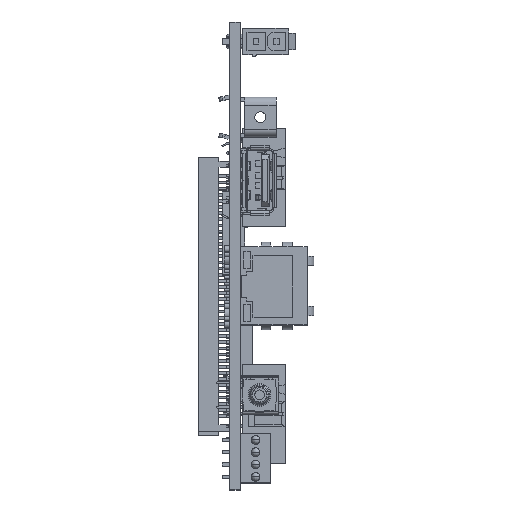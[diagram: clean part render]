
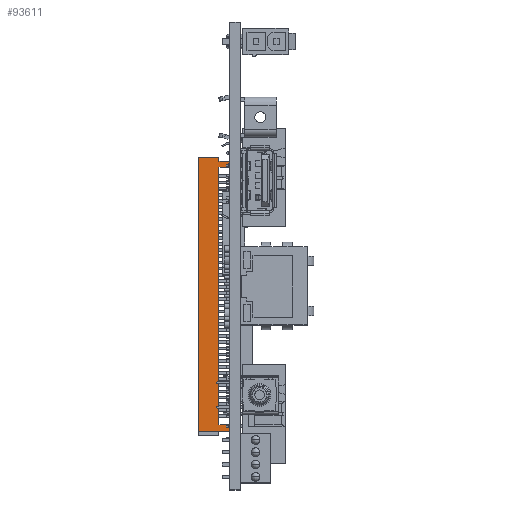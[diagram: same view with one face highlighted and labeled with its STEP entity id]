
A CAD part, top view. The second image highlights one B-rep face of the part: STEP entity #93611.
In plain terms, the highlighted planar face has unit normal (0, 0, 1).
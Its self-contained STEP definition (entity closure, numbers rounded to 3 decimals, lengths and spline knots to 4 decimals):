
#695=DIRECTION('',(0.,-1.,0.));
#696=VECTOR('',#695,0.05);
#697=CARTESIAN_POINT('',(0.,0.402,0.2255));
#698=LINE('',#697,#696);
#739=DIRECTION('',(0.,-1.,0.));
#740=VECTOR('',#739,0.05);
#741=CARTESIAN_POINT('',(0.,2.548,0.2255));
#742=LINE('',#741,#740);
#5218=DIRECTION('',(1.,0.,0.));
#5219=VECTOR('',#5218,0.088);
#5220=CARTESIAN_POINT('',(-0.088,2.498,0.2255));
#5221=LINE('',#5220,#5219);
#5246=DIRECTION('',(-1.,0.,0.));
#5247=VECTOR('',#5246,0.088);
#5248=CARTESIAN_POINT('',(0.,0.402,0.2255));
#5249=LINE('',#5248,#5247);
#5545=DIRECTION('',(0.,-1.,0.));
#5546=VECTOR('',#5545,2.096);
#5547=CARTESIAN_POINT('',(-0.088,2.498,0.2255));
#5548=LINE('',#5547,#5546);
#5549=DIRECTION('',(-1.,0.,0.));
#5550=VECTOR('',#5549,0.258);
#5551=CARTESIAN_POINT('',(0.,0.352,0.2255));
#5552=LINE('',#5551,#5550);
#5553=DIRECTION('',(0.,-1.,0.));
#5554=VECTOR('',#5553,0.033);
#5555=CARTESIAN_POINT('',(-0.088,2.581,0.2255));
#5556=LINE('',#5555,#5554);
#8383=DIRECTION('',(0.,-1.,0.));
#8384=VECTOR('',#8383,2.229);
#8385=CARTESIAN_POINT('',(-0.258,2.581,0.2255));
#8386=LINE('',#8385,#8384);
#9055=DIRECTION('',(-1.,0.,0.));
#9056=VECTOR('',#9055,0.17);
#9057=CARTESIAN_POINT('',(-0.088,2.581,0.2255));
#9058=LINE('',#9057,#9056);
#9067=DIRECTION('',(-1.,0.,0.));
#9068=VECTOR('',#9067,0.088);
#9069=CARTESIAN_POINT('',(0.,2.548,0.2255));
#9070=LINE('',#9069,#9068);
#79457=CARTESIAN_POINT('',(-0.088,0.402,0.2255));
#79458=VERTEX_POINT('',#79457);
#79459=CARTESIAN_POINT('',(-0.088,2.498,0.2255));
#79460=VERTEX_POINT('',#79459);
#80821=CARTESIAN_POINT('',(-0.088,2.581,0.2255));
#80822=CARTESIAN_POINT('',(-0.088,2.548,0.2255));
#80823=VERTEX_POINT('',#80821);
#80824=VERTEX_POINT('',#80822);
#80849=CARTESIAN_POINT('',(-0.258,0.352,0.2255));
#80850=VERTEX_POINT('',#80849);
#80851=CARTESIAN_POINT('',(-0.258,2.581,0.2255));
#80852=VERTEX_POINT('',#80851);
#82341=CARTESIAN_POINT('',(0.,0.352,0.2255));
#82342=VERTEX_POINT('',#82341);
#82343=CARTESIAN_POINT('',(0.,2.548,0.2255));
#82344=CARTESIAN_POINT('',(0.,2.498,0.2255));
#82345=VERTEX_POINT('',#82343);
#82346=VERTEX_POINT('',#82344);
#82347=CARTESIAN_POINT('',(0.,0.402,0.2255));
#82348=VERTEX_POINT('',#82347);
#93588=CARTESIAN_POINT('',(-0.129,1.4665,0.2255));
#93589=DIRECTION('',(0.,0.,-1.));
#93590=DIRECTION('',(0.,-1.,0.));
#93591=AXIS2_PLACEMENT_3D('',#93588,#93589,#93590);
#93592=PLANE('',#93591);
#93593=ORIENTED_EDGE('',*,*,#88574,.T.);
#93594=ORIENTED_EDGE('',*,*,#92863,.F.);
#93596=ORIENTED_EDGE('',*,*,#93595,.T.);
#93597=ORIENTED_EDGE('',*,*,#92910,.F.);
#93598=ORIENTED_EDGE('',*,*,#88552,.T.);
#93600=ORIENTED_EDGE('',*,*,#93599,.T.);
#93602=ORIENTED_EDGE('',*,*,#93601,.F.);
#93604=ORIENTED_EDGE('',*,*,#93603,.F.);
#93606=ORIENTED_EDGE('',*,*,#93605,.T.);
#93608=ORIENTED_EDGE('',*,*,#93607,.F.);
#93609=EDGE_LOOP('',(#93593,#93594,#93596,#93597,#93598,#93600,#93602,#93604,
#93606,#93608));
#93610=FACE_OUTER_BOUND('',#93609,.F.);
#93611=ADVANCED_FACE('',(#93610),#93592,.F.);
#88552=EDGE_CURVE('',#82348,#82342,#698,.T.);
#88574=EDGE_CURVE('',#82345,#82346,#742,.T.);
#92863=EDGE_CURVE('',#79460,#82346,#5221,.T.);
#92910=EDGE_CURVE('',#82348,#79458,#5249,.T.);
#93595=EDGE_CURVE('',#79460,#79458,#5548,.T.);
#93599=EDGE_CURVE('',#82342,#80850,#5552,.T.);
#93601=EDGE_CURVE('',#80852,#80850,#8386,.T.);
#93603=EDGE_CURVE('',#80823,#80852,#9058,.T.);
#93605=EDGE_CURVE('',#80823,#80824,#5556,.T.);
#93607=EDGE_CURVE('',#82345,#80824,#9070,.T.);
